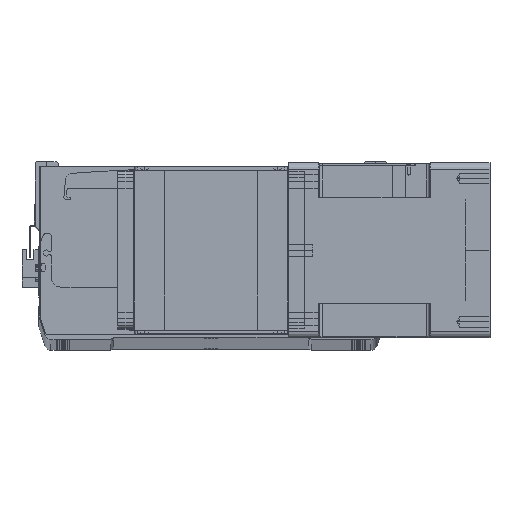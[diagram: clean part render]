
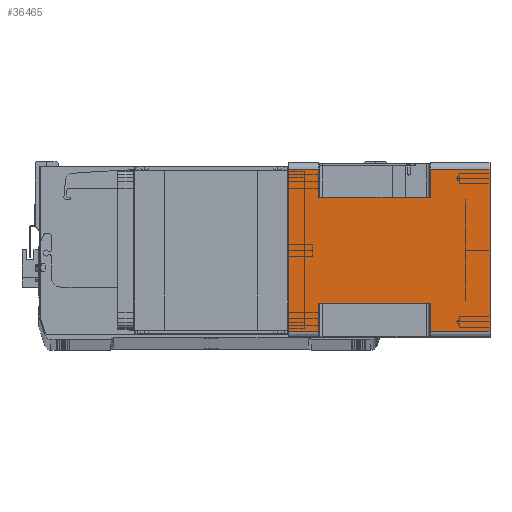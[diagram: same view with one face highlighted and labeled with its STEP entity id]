
A CAD part, top view. The second image highlights one B-rep face of the part: STEP entity #36465.
In plain terms, the highlighted planar face has unit normal (0, 0, 1) as drawn and (1, 0, 0) by its records, which use the part's own axes.
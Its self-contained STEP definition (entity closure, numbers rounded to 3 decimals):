
#432 = EDGE_CURVE ( 'NONE', #26370, #5019, #14905, .T. ) ;
#505 = DIRECTION ( 'NONE',  ( 0., 1., 0. ) ) ;
#1492 = EDGE_CURVE ( 'NONE', #34728, #36076, #31776, .T. ) ;
#1644 = DIRECTION ( 'NONE',  ( 0., 0., 1. ) ) ;
#1867 = VECTOR ( 'NONE', #26940, 1000. ) ;
#2320 = DIRECTION ( 'NONE',  ( 0., 0., 1. ) ) ;
#2699 = FACE_OUTER_BOUND ( 'NONE', #15348, .T. ) ;
#2762 = DIRECTION ( 'NONE',  ( 0., 0., 1. ) ) ;
#2961 = LINE ( 'NONE', #9196, #20871 ) ;
#3343 = DIRECTION ( 'NONE',  ( 0., -1., 0. ) ) ;
#3521 = VECTOR ( 'NONE', #39695, 1000. ) ;
#3628 = VECTOR ( 'NONE', #5428, 1000. ) ;
#5019 = VERTEX_POINT ( 'NONE', #35266 ) ;
#5099 = LINE ( 'NONE', #39663, #37021 ) ;
#5164 = ORIENTED_EDGE ( 'NONE', *, *, #34715, .T. ) ;
#5428 = DIRECTION ( 'NONE',  ( 0., 0., 1. ) ) ;
#6212 = CARTESIAN_POINT ( 'NONE',  ( 71., -66., -24.5 ) ) ;
#6452 = VECTOR ( 'NONE', #1644, 1000. ) ;
#7630 = CARTESIAN_POINT ( 'NONE',  ( 71., 43., -164. ) ) ;
#8491 = EDGE_CURVE ( 'NONE', #19413, #15740, #5099, .T. ) ;
#8879 = EDGE_CURVE ( 'NONE', #29485, #36020, #29709, .T. ) ;
#9196 = CARTESIAN_POINT ( 'NONE',  ( 71., -66., -24.5 ) ) ;
#9737 = CARTESIAN_POINT ( 'NONE',  ( 71., -66., -164. ) ) ;
#9994 = PLANE ( 'NONE',  #37501 ) ;
#10406 = ORIENTED_EDGE ( 'NONE', *, *, #22282, .F. ) ;
#10511 = EDGE_CURVE ( 'NONE', #36020, #5019, #37718, .T. ) ;
#12179 = ORIENTED_EDGE ( 'NONE', *, *, #38849, .F. ) ;
#12301 = CARTESIAN_POINT ( 'NONE',  ( 71., -43., -115.5 ) ) ;
#12683 = EDGE_CURVE ( 'NONE', #34728, #19364, #31143, .T. ) ;
#12773 = VECTOR ( 'NONE', #2320, 1000. ) ;
#13524 = VERTEX_POINT ( 'NONE', #29187 ) ;
#14284 = VECTOR ( 'NONE', #35472, 1000. ) ;
#14905 = LINE ( 'NONE', #7630, #36601 ) ;
#15004 = LINE ( 'NONE', #27087, #1867 ) ;
#15348 = EDGE_LOOP ( 'NONE', ( #26880, #16250, #10406, #22300, #21503, #23098, #26904, #5164, #37675, #12179, #29797, #19665 ) ) ;
#15499 = VERTEX_POINT ( 'NONE', #29059 ) ;
#15740 = VERTEX_POINT ( 'NONE', #36896 ) ;
#16203 = LINE ( 'NONE', #19939, #12773 ) ;
#16250 = ORIENTED_EDGE ( 'NONE', *, *, #1492, .T. ) ;
#17165 = LINE ( 'NONE', #32469, #6452 ) ;
#18628 = DIRECTION ( 'NONE',  ( 0., 1., 0. ) ) ;
#18772 = CARTESIAN_POINT ( 'NONE',  ( 71., 43., -115.5 ) ) ;
#19030 = DIRECTION ( 'NONE',  ( 1., 0., 0. ) ) ;
#19364 = VERTEX_POINT ( 'NONE', #27393 ) ;
#19413 = VERTEX_POINT ( 'NONE', #6212 ) ;
#19638 = EDGE_CURVE ( 'NONE', #30090, #29485, #29603, .T. ) ;
#19665 = ORIENTED_EDGE ( 'NONE', *, *, #36849, .T. ) ;
#19939 = CARTESIAN_POINT ( 'NONE',  ( 71., -66., -164. ) ) ;
#20619 = CARTESIAN_POINT ( 'NONE',  ( 71., -66., 0. ) ) ;
#20871 = VECTOR ( 'NONE', #18628, 1000. ) ;
#20961 = CARTESIAN_POINT ( 'NONE',  ( 71., -43., -164. ) ) ;
#21195 = CARTESIAN_POINT ( 'NONE',  ( 71., -66., -164. ) ) ;
#21503 = ORIENTED_EDGE ( 'NONE', *, *, #8879, .T. ) ;
#22222 = EDGE_CURVE ( 'NONE', #13524, #15499, #17165, .T. ) ;
#22282 = EDGE_CURVE ( 'NONE', #30090, #36076, #16203, .T. ) ;
#22300 = ORIENTED_EDGE ( 'NONE', *, *, #19638, .T. ) ;
#23098 = ORIENTED_EDGE ( 'NONE', *, *, #10511, .T. ) ;
#23415 = LINE ( 'NONE', #20619, #14284 ) ;
#23636 = CARTESIAN_POINT ( 'NONE',  ( 71., 43., -24.5 ) ) ;
#26100 = VECTOR ( 'NONE', #3343, 1000. ) ;
#26370 = VERTEX_POINT ( 'NONE', #23636 ) ;
#26734 = DIRECTION ( 'NONE',  ( 0., 0., 1. ) ) ;
#26880 = ORIENTED_EDGE ( 'NONE', *, *, #12683, .F. ) ;
#26904 = ORIENTED_EDGE ( 'NONE', *, *, #432, .F. ) ;
#26940 = DIRECTION ( 'NONE',  ( 0., 1., 0. ) ) ;
#27087 = CARTESIAN_POINT ( 'NONE',  ( 71., -43., -24.5 ) ) ;
#27393 = CARTESIAN_POINT ( 'NONE',  ( 71., -43., -24.5 ) ) ;
#27410 = VECTOR ( 'NONE', #39401, 1000. ) ;
#29059 = CARTESIAN_POINT ( 'NONE',  ( 71., 66., 0. ) ) ;
#29187 = CARTESIAN_POINT ( 'NONE',  ( 71., 66., -24.5 ) ) ;
#29485 = VERTEX_POINT ( 'NONE', #31031 ) ;
#29603 = LINE ( 'NONE', #21195, #3521 ) ;
#29709 = LINE ( 'NONE', #35844, #3628 ) ;
#29797 = ORIENTED_EDGE ( 'NONE', *, *, #8491, .F. ) ;
#30090 = VERTEX_POINT ( 'NONE', #30208 ) ;
#30208 = CARTESIAN_POINT ( 'NONE',  ( 71., -66., -164. ) ) ;
#31031 = CARTESIAN_POINT ( 'NONE',  ( 71., 66., -164. ) ) ;
#31143 = LINE ( 'NONE', #20961, #34515 ) ;
#31776 = LINE ( 'NONE', #36571, #27410 ) ;
#32341 = DIRECTION ( 'NONE',  ( 0., 0., -1. ) ) ;
#32469 = CARTESIAN_POINT ( 'NONE',  ( 71., 66., -164. ) ) ;
#34515 = VECTOR ( 'NONE', #26734, 1000. ) ;
#34715 = EDGE_CURVE ( 'NONE', #26370, #13524, #2961, .T. ) ;
#34728 = VERTEX_POINT ( 'NONE', #12301 ) ;
#34989 = CARTESIAN_POINT ( 'NONE',  ( 71., 66., -115.5 ) ) ;
#35266 = CARTESIAN_POINT ( 'NONE',  ( 71., 43., -115.5 ) ) ;
#35472 = DIRECTION ( 'NONE',  ( 0., 1., 0. ) ) ;
#35844 = CARTESIAN_POINT ( 'NONE',  ( 71., 66., -164. ) ) ;
#36020 = VERTEX_POINT ( 'NONE', #34989 ) ;
#36076 = VERTEX_POINT ( 'NONE', #37816 ) ;
#36465 = ADVANCED_FACE ( 'NONE', ( #2699 ), #9994, .T. ) ;
#36571 = CARTESIAN_POINT ( 'NONE',  ( 71., -66., -115.5 ) ) ;
#36601 = VECTOR ( 'NONE', #32341, 1000. ) ;
#36849 = EDGE_CURVE ( 'NONE', #19413, #19364, #15004, .T. ) ;
#36896 = CARTESIAN_POINT ( 'NONE',  ( 71., -66., 0. ) ) ;
#37021 = VECTOR ( 'NONE', #2762, 1000. ) ;
#37501 = AXIS2_PLACEMENT_3D ( 'NONE', #9737, #19030, #505 ) ;
#37675 = ORIENTED_EDGE ( 'NONE', *, *, #22222, .T. ) ;
#37718 = LINE ( 'NONE', #18772, #26100 ) ;
#37816 = CARTESIAN_POINT ( 'NONE',  ( 71., -66., -115.5 ) ) ;
#38849 = EDGE_CURVE ( 'NONE', #15740, #15499, #23415, .T. ) ;
#39401 = DIRECTION ( 'NONE',  ( 0., -1., 0. ) ) ;
#39663 = CARTESIAN_POINT ( 'NONE',  ( 71., -66., -164. ) ) ;
#39695 = DIRECTION ( 'NONE',  ( 0., 1., 0. ) ) ;
